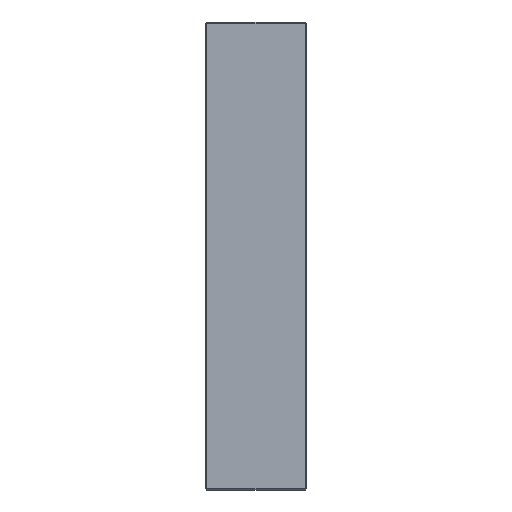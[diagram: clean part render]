
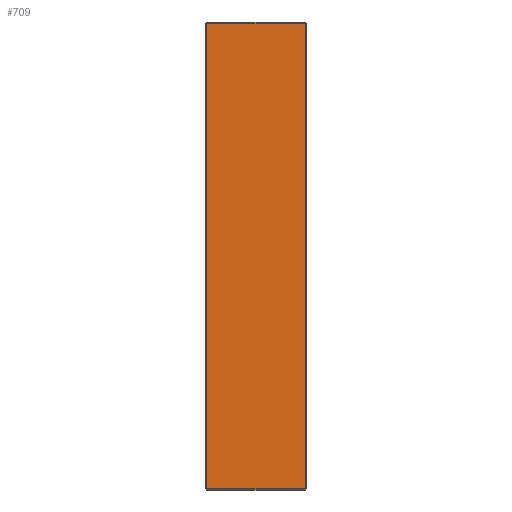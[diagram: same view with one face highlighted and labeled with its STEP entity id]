
A CAD part, left-side view. The second image highlights one B-rep face of the part: STEP entity #709.
In plain terms, the highlighted planar face has unit normal (-1, 0, 0).
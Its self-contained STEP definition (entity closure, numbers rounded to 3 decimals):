
#56 = CARTESIAN_POINT ( 'NONE',  ( -148., 95., 222. ) ) ;
#189 = VECTOR ( 'NONE', #1002, 1000. ) ;
#192 = EDGE_CURVE ( 'NONE', #800, #2099, #365, .T. ) ;
#365 = LINE ( 'NONE', #975, #189 ) ;
#480 = VECTOR ( 'NONE', #804, 1000. ) ;
#555 = CARTESIAN_POINT ( 'NONE',  ( -148., 95., -222. ) ) ;
#709 = ADVANCED_FACE ( 'NONE', ( #2658 ), #1574, .F. ) ;
#746 = CARTESIAN_POINT ( 'NONE',  ( -148., 96., 222. ) ) ;
#800 = VERTEX_POINT ( 'NONE', #555 ) ;
#804 = DIRECTION ( 'NONE',  ( 0., 1., 0. ) ) ;
#882 = ORIENTED_EDGE ( 'NONE', *, *, #2066, .T. ) ;
#897 = CARTESIAN_POINT ( 'NONE',  ( -148., 96., 223. ) ) ;
#910 = VERTEX_POINT ( 'NONE', #56 ) ;
#938 = DIRECTION ( 'NONE',  ( 0., 0., -1. ) ) ;
#952 = DIRECTION ( 'NONE',  ( 1., 0., 0. ) ) ;
#975 = CARTESIAN_POINT ( 'NONE',  ( -148., 96., -222. ) ) ;
#1002 = DIRECTION ( 'NONE',  ( 0., -1., 0. ) ) ;
#1029 = DIRECTION ( 'NONE',  ( 0., 0., -1. ) ) ;
#1037 = EDGE_LOOP ( 'NONE', ( #1170, #1060, #1038, #882 ) ) ;
#1038 = ORIENTED_EDGE ( 'NONE', *, *, #192, .T. ) ;
#1060 = ORIENTED_EDGE ( 'NONE', *, *, #2600, .T. ) ;
#1135 = CARTESIAN_POINT ( 'NONE',  ( -148., 95., 223. ) ) ;
#1170 = ORIENTED_EDGE ( 'NONE', *, *, #2257, .T. ) ;
#1374 = VECTOR ( 'NONE', #2566, 1000. ) ;
#1521 = VECTOR ( 'NONE', #1029, 1000. ) ;
#1543 = VERTEX_POINT ( 'NONE', #1607 ) ;
#1574 = PLANE ( 'NONE',  #2070 ) ;
#1607 = CARTESIAN_POINT ( 'NONE',  ( -148., 1., 222. ) ) ;
#1618 = CARTESIAN_POINT ( 'NONE',  ( -148., 1., -222. ) ) ;
#1776 = LINE ( 'NONE', #746, #480 ) ;
#2066 = EDGE_CURVE ( 'NONE', #2099, #1543, #2501, .T. ) ;
#2070 = AXIS2_PLACEMENT_3D ( 'NONE', #897, #952, #938 ) ;
#2090 = LINE ( 'NONE', #1135, #1521 ) ;
#2099 = VERTEX_POINT ( 'NONE', #1618 ) ;
#2257 = EDGE_CURVE ( 'NONE', #1543, #910, #1776, .T. ) ;
#2501 = LINE ( 'NONE', #2579, #1374 ) ;
#2566 = DIRECTION ( 'NONE',  ( 0., 0., 1. ) ) ;
#2579 = CARTESIAN_POINT ( 'NONE',  ( -148., 1., 223. ) ) ;
#2600 = EDGE_CURVE ( 'NONE', #910, #800, #2090, .T. ) ;
#2658 = FACE_OUTER_BOUND ( 'NONE', #1037, .T. ) ;
